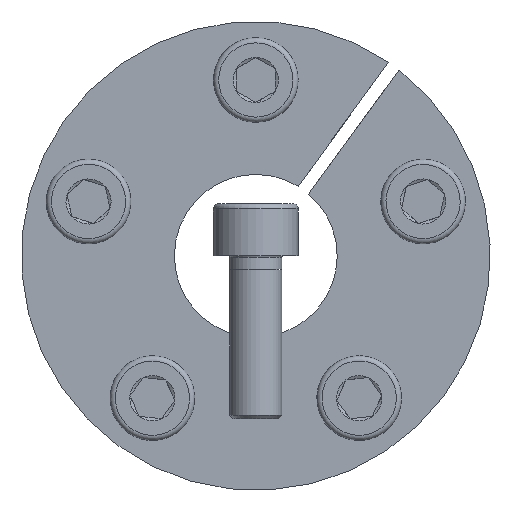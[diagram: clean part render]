
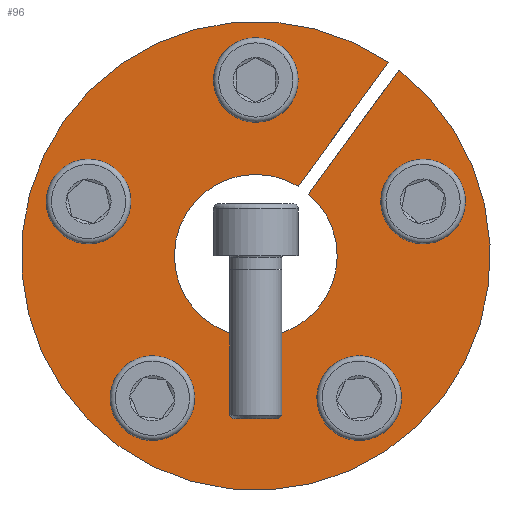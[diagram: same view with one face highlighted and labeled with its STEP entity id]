
A CAD part, front view. The second image highlights one B-rep face of the part: STEP entity #96.
In plain terms, the highlighted planar face has unit normal (0, -1, 0).
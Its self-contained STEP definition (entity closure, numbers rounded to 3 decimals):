
#96 = ADVANCED_FACE( '', ( #202, #203, #204, #205, #206, #207 ), #208, .F. );
#202 = FACE_OUTER_BOUND( '', #322, .T. );
#203 = FACE_BOUND( '', #323, .T. );
#204 = FACE_BOUND( '', #324, .T. );
#205 = FACE_BOUND( '', #325, .T. );
#206 = FACE_BOUND( '', #326, .T. );
#207 = FACE_BOUND( '', #327, .T. );
#208 = PLANE( '', #328 );
#322 = EDGE_LOOP( '', ( #524, #525, #526, #527 ) );
#323 = EDGE_LOOP( '', ( #528 ) );
#324 = EDGE_LOOP( '', ( #529 ) );
#325 = EDGE_LOOP( '', ( #530 ) );
#326 = EDGE_LOOP( '', ( #531 ) );
#327 = EDGE_LOOP( '', ( #532 ) );
#328 = AXIS2_PLACEMENT_3D( '', #533, #534, #535 );
#524 = ORIENTED_EDGE( '', *, *, #705, .T. );
#525 = ORIENTED_EDGE( '', *, *, #689, .T. );
#526 = ORIENTED_EDGE( '', *, *, #673, .T. );
#527 = ORIENTED_EDGE( '', *, *, #706, .F. );
#528 = ORIENTED_EDGE( '', *, *, #691, .F. );
#529 = ORIENTED_EDGE( '', *, *, #645, .F. );
#530 = ORIENTED_EDGE( '', *, *, #648, .F. );
#531 = ORIENTED_EDGE( '', *, *, #703, .F. );
#532 = ORIENTED_EDGE( '', *, *, #662, .F. );
#533 = CARTESIAN_POINT( '', ( 0., 0., 36. ) );
#534 = DIRECTION( '', ( 0., 1., 0. ) );
#535 = DIRECTION( '', ( 1., 0., 0. ) );
#645 = EDGE_CURVE( '', #778, #778, #779, .T. );
#648 = EDGE_CURVE( '', #783, #783, #784, .T. );
#662 = EDGE_CURVE( '', #807, #807, #808, .T. );
#673 = EDGE_CURVE( '', #812, #826, #828, .T. );
#689 = EDGE_CURVE( '', #851, #812, #853, .T. );
#691 = EDGE_CURVE( '', #855, #855, #856, .T. );
#703 = EDGE_CURVE( '', #872, #872, #873, .T. );
#705 = EDGE_CURVE( '', #875, #851, #876, .T. );
#706 = EDGE_CURVE( '', #875, #826, #877, .T. );
#778 = VERTEX_POINT( '', #1035 );
#779 = CIRCLE( '', #1036, 4.5 );
#783 = VERTEX_POINT( '', #1040 );
#784 = CIRCLE( '', #1041, 4.5 );
#807 = VERTEX_POINT( '', #1070 );
#808 = CIRCLE( '', #1071, 4.5 );
#812 = VERTEX_POINT( '', #1075 );
#826 = VERTEX_POINT( '', #1098 );
#828 = LINE( '', #1101, #1102 );
#851 = VERTEX_POINT( '', #1127 );
#853 = CIRCLE( '', #1130, 36. );
#855 = VERTEX_POINT( '', #1132 );
#856 = CIRCLE( '', #1133, 4.5 );
#872 = VERTEX_POINT( '', #1154 );
#873 = CIRCLE( '', #1155, 4.5 );
#875 = VERTEX_POINT( '', #1157 );
#876 = LINE( '', #1158, #1159 );
#877 = CIRCLE( '', #1160, 12.5 );
#1035 = CARTESIAN_POINT( '', ( 27.069, 0., 4.064 ) );
#1036 = AXIS2_PLACEMENT_3D( '', #1209, #1210, #1211 );
#1040 = CARTESIAN_POINT( '', ( 12.23, 0., -24.488 ) );
#1041 = AXIS2_PLACEMENT_3D( '', #1215, #1216, #1217 );
#1070 = CARTESIAN_POINT( '', ( -24.288, 0., 12.623 ) );
#1071 = AXIS2_PLACEMENT_3D( '', #1239, #1240, #1241 );
#1075 = CARTESIAN_POINT( '', ( 21.961, 0., 28.526 ) );
#1098 = CARTESIAN_POINT( '', ( 8.133, 0., 9.493 ) );
#1101 = CARTESIAN_POINT( '', ( 21.969, 0., 28.537 ) );
#1102 = VECTOR( '', #1252, 1000. );
#1127 = CARTESIAN_POINT( '', ( 20.343, 0., 29.701 ) );
#1130 = AXIS2_PLACEMENT_3D( '', #1280, #1281, #1282 );
#1132 = CARTESIAN_POINT( '', ( 4.5, 0., 27. ) );
#1133 = AXIS2_PLACEMENT_3D( '', #1283, #1284, #1285 );
#1154 = CARTESIAN_POINT( '', ( -19.511, 0., -19.198 ) );
#1155 = AXIS2_PLACEMENT_3D( '', #1300, #1301, #1302 );
#1157 = CARTESIAN_POINT( '', ( 6.515, 0., 10.668 ) );
#1158 = CARTESIAN_POINT( '', ( 6.515, 0., 10.668 ) );
#1159 = VECTOR( '', #1303, 1000. );
#1160 = AXIS2_PLACEMENT_3D( '', #1304, #1305, #1306 );
#1209 = CARTESIAN_POINT( '', ( 25.679, 0., 8.343 ) );
#1210 = DIRECTION( '', ( 0., -1., 0. ) );
#1211 = DIRECTION( '', ( 0.309, 0., -0.951 ) );
#1215 = CARTESIAN_POINT( '', ( 15.87, 0., -21.843 ) );
#1216 = DIRECTION( '', ( 0., -1., 0. ) );
#1217 = DIRECTION( '', ( -0.809, 0., -0.588 ) );
#1239 = CARTESIAN_POINT( '', ( -25.679, 0., 8.343 ) );
#1240 = DIRECTION( '', ( 0., -1., 0. ) );
#1241 = DIRECTION( '', ( 0.309, 0., 0.951 ) );
#1252 = DIRECTION( '', ( -0.588, 0., -0.809 ) );
#1280 = CARTESIAN_POINT( '', ( 0., 0., 0. ) );
#1281 = DIRECTION( '', ( 0., -1., 0. ) );
#1282 = DIRECTION( '', ( 0., 0., -1. ) );
#1283 = CARTESIAN_POINT( '', ( 0., 0., 27. ) );
#1284 = DIRECTION( '', ( 0., -1., 0. ) );
#1285 = DIRECTION( '', ( 1., 0., 0. ) );
#1300 = CARTESIAN_POINT( '', ( -15.87, 0., -21.843 ) );
#1301 = DIRECTION( '', ( 0., -1., 0. ) );
#1302 = DIRECTION( '', ( -0.809, 0., 0.588 ) );
#1303 = DIRECTION( '', ( 0.588, 0., 0.809 ) );
#1304 = CARTESIAN_POINT( '', ( 0., 0., 0. ) );
#1305 = DIRECTION( '', ( 0., -1., 0. ) );
#1306 = DIRECTION( '', ( 0., 0., -1. ) );
